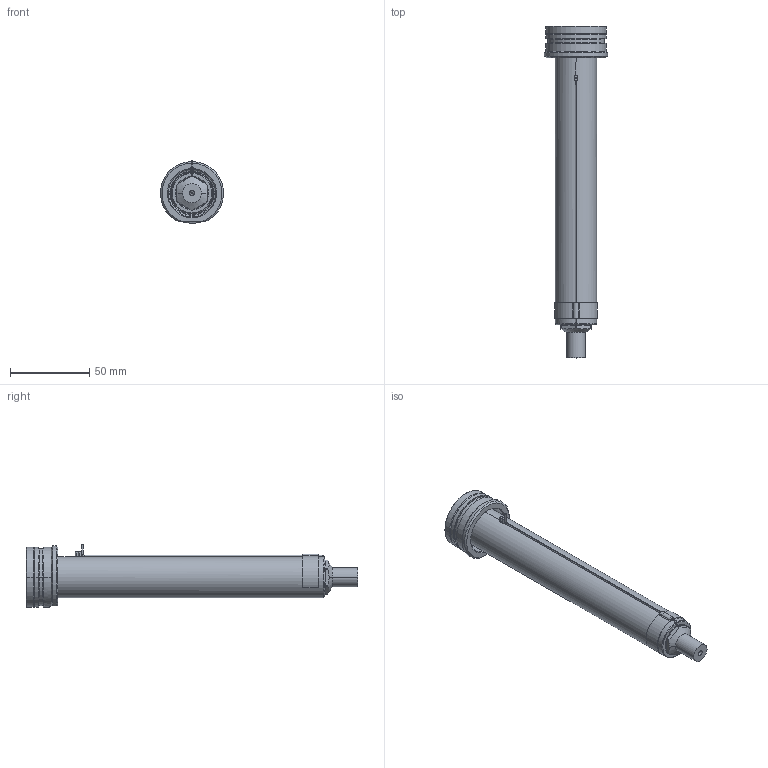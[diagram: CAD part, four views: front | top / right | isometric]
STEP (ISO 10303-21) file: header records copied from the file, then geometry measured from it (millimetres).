
FILE_DESCRIPTION((''),'2;1');
FILE_NAME('EO08_PG-FBE_WR_180_SW','2024-02-19T11:56:52',('sundharh'),(''),'CREO PARAMETRIC BY PTC INC, 2023154','CREO PARAMETRIC BY PTC INC, 2023154','');
FILE_SCHEMA(('CONFIG_CONTROL_DESIGN'));
Length unit declared in the file: millimetre
Products named in the file (1): EO08_PG-FBE_WR_180_SW
Bounding box: 39.88 x 210 x 39.52 mm (x, y, z)
Volume: 103774.1 mm3; surface area: 29003 mm2
Topology: 1 solids, 1 shells, 210 faces, 558 edges, 344 vertices
Faces by surface type: cylinder 81, plane 58, cone 45, torus 19, bspline 4, sphere 3
Entity records: 8146 total; most frequent: CARTESIAN_POINT 2812, DIRECTION 1176, ORIENTED_EDGE 1104, EDGE_CURVE 552, AXIS2_PLACEMENT_3D 491, VERTEX_POINT 344, CIRCLE 285, EDGE_LOOP 228
